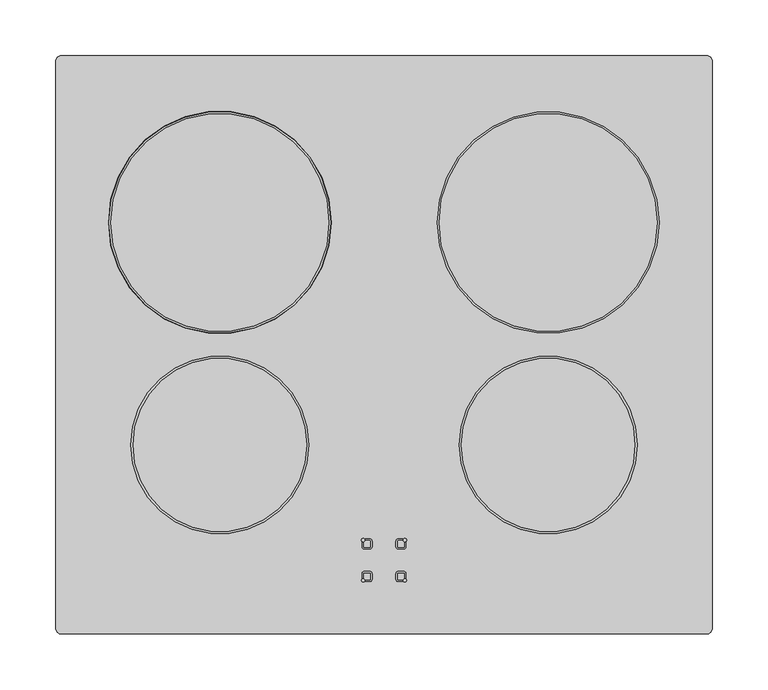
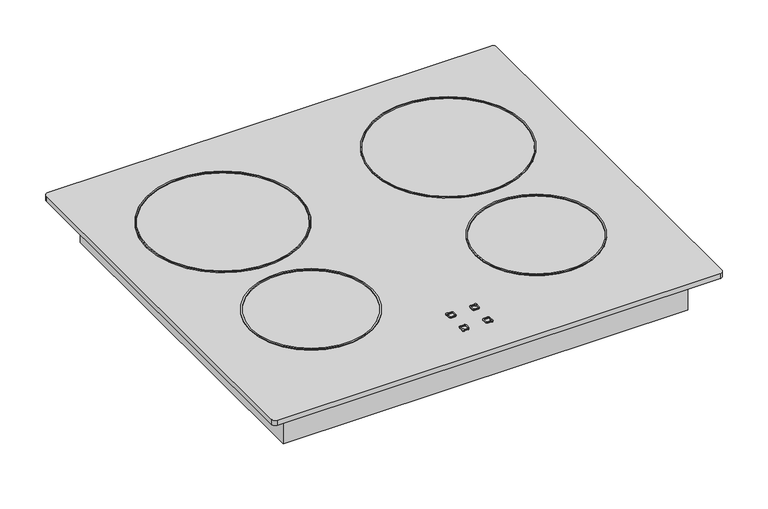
"""IFC4 building model written with IfcOpenShell, lengths in millimetres: proxy geometry, HAFELE Kitchen Induction Hob Plus+LONGBOTTOM : LONGBOTTOM_538.46.021."""

from ifc_helpers import new_model, si_unit, point, frame, frame_2d, origin, origin_with_axes, place, context, project, spatial, polyline, circle_curve, trimmed, segment, composite_curve, outline, extrude, source, transform, mapped, element, save
from ifc_brep_helpers import plane_surface, cylinder_surface, revolved_surface, advanced_brep


def specialty_equipment_7a79cb5c(model_context):
    return source(origin(), model_context, "Body", "SolidModel", [
        extrude(outline(polyline([(265.0, -30.0), (265.0, -490.0), (-265.0, -490.0), (-265.0, -30.0), (265.0, -30.0)])), origin_with_axes(), (0.0, 0.0, 1.0), 53.0),
        extrude(outline(composite_curve([segment(trimmed(circle_curve(frame_2d((147.5, -150.0)), 99.6194698), [point((247.1194698, -150.0))], [point((47.8805302, -150.0))], False, "CARTESIAN"), True, "CONTINUOUS"), segment(trimmed(circle_curve(frame_2d((147.5, -150.0)), 99.6194698), [point((47.8805302, -150.0))], [point((247.1194698, -150.0))], False, "CARTESIAN"), True, "CONTINUOUS")], self_intersect=False), holes=[composite_curve([segment(trimmed(circle_curve(frame_2d((147.5, -150.0)), 98.0), [point((245.5, -150.0))], [point((49.5, -150.0))], True, "CARTESIAN"), True, "CONTINUOUS"), segment(trimmed(circle_curve(frame_2d((147.5, -150.0)), 98.0), [point((49.5, -150.0))], [point((245.5, -150.0))], True, "CARTESIAN"), True, "CONTINUOUS")], self_intersect=False)]), frame((0.0, 0.0, 58.0), z_axis=(0.0, 0.0, 1.0), x_axis=(1.0, 0.0, 0.0)), (0.0, 0.0, 1.0), 3.0),
        extrude(outline(composite_curve([segment(trimmed(circle_curve(frame_2d((147.5, -350.0)), 80.0), [point((227.5, -350.0))], [point((67.5, -350.0))], False, "CARTESIAN"), True, "CONTINUOUS"), segment(trimmed(circle_curve(frame_2d((147.5, -350.0)), 80.0), [point((67.5, -350.0))], [point((227.5, -350.0))], False, "CARTESIAN"), True, "CONTINUOUS")], self_intersect=False), holes=[composite_curve([segment(trimmed(circle_curve(frame_2d((147.5, -350.0)), 78.0), [point((225.5, -350.0))], [point((69.5, -350.0))], True, "CARTESIAN"), True, "CONTINUOUS"), segment(trimmed(circle_curve(frame_2d((147.5, -350.0)), 78.0), [point((69.5, -350.0))], [point((225.5, -350.0))], True, "CARTESIAN"), True, "CONTINUOUS")], self_intersect=False)]), frame((0.0, 0.0, 58.0), z_axis=(0.0, 0.0, 1.0), x_axis=(1.0, 0.0, 0.0)), (0.0, 0.0, 1.0), 3.0),
        extrude(outline(composite_curve([segment(polyline([(-12.7462069, -435.5651361), (-16.7462069, -435.5651361)]), True, "CONTINUOUS"), segment(trimmed(circle_curve(frame_2d((-18.7462069, -435.5651361)), 2.0), [point((-16.7462069, -435.5651361))], [point((-17.0141561, -434.5651361))], True, "CARTESIAN"), True, "CONTINUOUS"), segment(polyline([(-17.0141561, -434.5651361), (-12.7462069, -434.5651361)]), True, "CONTINUOUS"), segment(trimmed(circle_curve(frame_2d((-12.7462069, -436.5651361)), 2.0), [point((-12.7462069, -434.5651361))], [point((-10.7462069, -436.5651361))], False, "CARTESIAN"), True, "CONTINUOUS"), segment(polyline([(-10.7462069, -436.5651361), (-10.7462069, -441.5651361)]), True, "CONTINUOUS"), segment(trimmed(circle_curve(frame_2d((-12.7462069, -441.5651361)), 2.0), [point((-10.7462069, -441.5651361))], [point((-12.7462069, -443.5651361))], False, "CARTESIAN"), True, "CONTINUOUS"), segment(polyline([(-12.7462069, -443.5651361), (-17.7462069, -443.5651361)]), True, "CONTINUOUS"), segment(trimmed(circle_curve(frame_2d((-17.7462069, -441.5651361)), 2.0), [point((-17.7462069, -443.5651361))], [point((-19.7462069, -441.5651361))], False, "CARTESIAN"), True, "CONTINUOUS"), segment(polyline([(-19.7462069, -441.5651361), (-19.7462069, -437.297187)]), True, "CONTINUOUS"), segment(trimmed(circle_curve(frame_2d((-18.7462069, -435.5651361)), 2.0), [point((-19.7462069, -437.297187))], [point((-18.7462069, -437.5651361))], True, "CARTESIAN"), True, "CONTINUOUS"), segment(polyline([(-18.7462069, -437.5651361), (-18.7462069, -441.5651361)]), True, "CONTINUOUS"), segment(trimmed(circle_curve(frame_2d((-17.7462069, -441.5651361)), 1.0), [point((-18.7462069, -441.5651361))], [point((-17.7462069, -442.5651361))], True, "CARTESIAN"), True, "CONTINUOUS"), segment(polyline([(-17.7462069, -442.5651361), (-12.7462069, -442.5651361)]), True, "CONTINUOUS"), segment(trimmed(circle_curve(frame_2d((-12.7462069, -441.5651361)), 1.0), [point((-12.7462069, -442.5651361))], [point((-11.7462069, -441.5651361))], True, "CARTESIAN"), True, "CONTINUOUS"), segment(polyline([(-11.7462069, -441.5651361), (-11.7462069, -436.5651361)]), True, "CONTINUOUS"), segment(trimmed(circle_curve(frame_2d((-12.7462069, -436.5651361)), 1.0), [point((-11.7462069, -436.5651361))], [point((-12.7462069, -435.5651361))], True, "CARTESIAN"), True, "CONTINUOUS")], self_intersect=False)), frame((0.0, 0.0, 58.0), z_axis=(0.0, 0.0, 1.0), x_axis=(1.0, 0.0, 0.0)), (0.0, 0.0, 1.0), 3.0),
        extrude(outline(composite_curve([segment(trimmed(circle_curve(frame_2d((-18.7462069, -435.5651361)), 1.5), [point((-19.7254388, -434.4288682))], [point((-17.7669751, -436.7014041))], False, "CARTESIAN"), True, "CONTINUOUS"), segment(trimmed(circle_curve(frame_2d((-18.7462069, -435.5651361)), 1.5), [point((-17.7669751, -436.7014041))], [point((-19.7254388, -434.4288682))], False, "CARTESIAN"), True, "CONTINUOUS")], self_intersect=False)), frame((0.0, 0.0, 58.0), z_axis=(0.0, 0.0, 1.0), x_axis=(1.0, 0.0, 0.0)), (0.0, 0.0, 1.0), 3.0),
        extrude(outline(composite_curve([segment(trimmed(circle_curve(frame_2d((12.7462069, -436.5651361)), 1.0), [point((12.7462069, -435.5651361))], [point((11.7462069, -436.5651361))], True, "CARTESIAN"), True, "CONTINUOUS"), segment(polyline([(11.7462069, -436.5651361), (11.7462069, -441.5651361)]), True, "CONTINUOUS"), segment(trimmed(circle_curve(frame_2d((12.7462069, -441.5651361)), 1.0), [point((11.7462069, -441.5651361))], [point((12.7462069, -442.5651361))], True, "CARTESIAN"), True, "CONTINUOUS"), segment(polyline([(12.7462069, -442.5651361), (17.7462069, -442.5651361)]), True, "CONTINUOUS"), segment(trimmed(circle_curve(frame_2d((17.7462069, -441.5651361)), 1.0), [point((17.7462069, -442.5651361))], [point((18.7462069, -441.5651361))], True, "CARTESIAN"), True, "CONTINUOUS"), segment(polyline([(18.7462069, -441.5651361), (18.7462069, -437.5651361)]), True, "CONTINUOUS"), segment(trimmed(circle_curve(frame_2d((18.7462069, -435.5651361)), 2.0), [point((18.7462069, -437.5651361))], [point((19.7462069, -437.297187))], True, "CARTESIAN"), True, "CONTINUOUS"), segment(polyline([(19.7462069, -437.297187), (19.7462069, -441.5651361)]), True, "CONTINUOUS"), segment(trimmed(circle_curve(frame_2d((17.7462069, -441.5651361)), 2.0), [point((19.7462069, -441.5651361))], [point((17.7462069, -443.5651361))], False, "CARTESIAN"), True, "CONTINUOUS"), segment(polyline([(17.7462069, -443.5651361), (12.7462069, -443.5651361)]), True, "CONTINUOUS"), segment(trimmed(circle_curve(frame_2d((12.7462069, -441.5651361)), 2.0), [point((12.7462069, -443.5651361))], [point((10.7462069, -441.5651361))], False, "CARTESIAN"), True, "CONTINUOUS"), segment(polyline([(10.7462069, -441.5651361), (10.7462069, -436.5651361)]), True, "CONTINUOUS"), segment(trimmed(circle_curve(frame_2d((12.7462069, -436.5651361)), 2.0), [point((10.7462069, -436.5651361))], [point((12.7462069, -434.5651361))], False, "CARTESIAN"), True, "CONTINUOUS"), segment(polyline([(12.7462069, -434.5651361), (17.0141561, -434.5651361)]), True, "CONTINUOUS"), segment(trimmed(circle_curve(frame_2d((18.7462069, -435.5651361)), 2.0), [point((17.0141561, -434.5651361))], [point((16.7462069, -435.5651361))], True, "CARTESIAN"), True, "CONTINUOUS"), segment(polyline([(16.7462069, -435.5651361), (12.7462069, -435.5651361)]), True, "CONTINUOUS")], self_intersect=False)), frame((0.0, 0.0, 58.0), z_axis=(0.0, 0.0, 1.0), x_axis=(1.0, 0.0, 0.0)), (0.0, 0.0, 1.0), 3.0),
        extrude(outline(composite_curve([segment(trimmed(circle_curve(frame_2d((18.7462069, -435.5651361)), 1.5), [point((17.7669751, -436.7014041))], [point((19.7254388, -434.4288682))], False, "CARTESIAN"), True, "CONTINUOUS"), segment(trimmed(circle_curve(frame_2d((18.7462069, -435.5651361)), 1.5), [point((19.7254388, -434.4288682))], [point((17.7669751, -436.7014041))], False, "CARTESIAN"), True, "CONTINUOUS")], self_intersect=False)), frame((0.0, 0.0, 58.0), z_axis=(0.0, 0.0, 1.0), x_axis=(1.0, 0.0, 0.0)), (0.0, 0.0, 1.0), 3.0),
        extrude(outline(composite_curve([segment(trimmed(circle_curve(frame_2d((-12.7462069, -470.8337681)), 1.0), [point((-12.7462069, -471.8337681))], [point((-11.7462069, -470.8337681))], True, "CARTESIAN"), True, "CONTINUOUS"), segment(polyline([(-11.7462069, -470.8337681), (-11.7462069, -465.8337681)]), True, "CONTINUOUS"), segment(trimmed(circle_curve(frame_2d((-12.7462069, -465.8337681)), 1.0), [point((-11.7462069, -465.8337681))], [point((-12.7462069, -464.8337681))], True, "CARTESIAN"), True, "CONTINUOUS"), segment(polyline([(-12.7462069, -464.8337681), (-17.7462069, -464.8337681)]), True, "CONTINUOUS"), segment(trimmed(circle_curve(frame_2d((-17.7462069, -465.8337681)), 1.0), [point((-17.7462069, -464.8337681))], [point((-18.7462069, -465.8337681))], True, "CARTESIAN"), True, "CONTINUOUS"), segment(polyline([(-18.7462069, -465.8337681), (-18.7462069, -469.8337681)]), True, "CONTINUOUS"), segment(trimmed(circle_curve(frame_2d((-18.7462069, -471.8337681)), 2.0), [point((-18.7462069, -469.8337681))], [point((-19.7462069, -470.1017173))], True, "CARTESIAN"), True, "CONTINUOUS"), segment(polyline([(-19.7462069, -470.1017173), (-19.7462069, -465.8337681)]), True, "CONTINUOUS"), segment(trimmed(circle_curve(frame_2d((-17.7462069, -465.8337681)), 2.0), [point((-19.7462069, -465.8337681))], [point((-17.7462069, -463.8337681))], False, "CARTESIAN"), True, "CONTINUOUS"), segment(polyline([(-17.7462069, -463.8337681), (-12.7462069, -463.8337681)]), True, "CONTINUOUS"), segment(trimmed(circle_curve(frame_2d((-12.7462069, -465.8337681)), 2.0), [point((-12.7462069, -463.8337681))], [point((-10.7462069, -465.8337681))], False, "CARTESIAN"), True, "CONTINUOUS"), segment(polyline([(-10.7462069, -465.8337681), (-10.7462069, -470.8337681)]), True, "CONTINUOUS"), segment(trimmed(circle_curve(frame_2d((-12.7462069, -470.8337681)), 2.0), [point((-10.7462069, -470.8337681))], [point((-12.7462069, -472.8337681))], False, "CARTESIAN"), True, "CONTINUOUS"), segment(polyline([(-12.7462069, -472.8337681), (-17.0141561, -472.8337681)]), True, "CONTINUOUS"), segment(trimmed(circle_curve(frame_2d((-18.7462069, -471.8337681)), 2.0), [point((-17.0141561, -472.8337681))], [point((-16.7462069, -471.8337681))], True, "CARTESIAN"), True, "CONTINUOUS"), segment(polyline([(-16.7462069, -471.8337681), (-12.7462069, -471.8337681)]), True, "CONTINUOUS")], self_intersect=False)), frame((0.0, 0.0, 58.0), z_axis=(0.0, 0.0, 1.0), x_axis=(1.0, 0.0, 0.0)), (0.0, 0.0, 1.0), 3.0),
        extrude(outline(composite_curve([segment(trimmed(circle_curve(frame_2d((-18.7462069, -471.8337681)), 1.5), [point((-19.7254388, -472.9700361))], [point((-17.7669751, -470.6975001))], False, "CARTESIAN"), True, "CONTINUOUS"), segment(trimmed(circle_curve(frame_2d((-18.7462069, -471.8337681)), 1.5), [point((-17.7669751, -470.6975001))], [point((-19.7254388, -472.9700361))], False, "CARTESIAN"), True, "CONTINUOUS")], self_intersect=False)), frame((0.0, 0.0, 58.0), z_axis=(0.0, 0.0, 1.0), x_axis=(1.0, 0.0, 0.0)), (0.0, 0.0, 1.0), 3.0),
        extrude(outline(composite_curve([segment(polyline([(12.7462069, -471.8337681), (16.7462069, -471.8337681)]), True, "CONTINUOUS"), segment(trimmed(circle_curve(frame_2d((18.7462069, -471.8337681)), 2.0), [point((16.7462069, -471.8337681))], [point((17.0141561, -472.8337681))], True, "CARTESIAN"), True, "CONTINUOUS"), segment(polyline([(17.0141561, -472.8337681), (12.7462069, -472.8337681)]), True, "CONTINUOUS"), segment(trimmed(circle_curve(frame_2d((12.7462069, -470.8337681)), 2.0), [point((12.7462069, -472.8337681))], [point((10.7462069, -470.8337681))], False, "CARTESIAN"), True, "CONTINUOUS"), segment(polyline([(10.7462069, -470.8337681), (10.7462069, -465.8337681)]), True, "CONTINUOUS"), segment(trimmed(circle_curve(frame_2d((12.7462069, -465.8337681)), 2.0), [point((10.7462069, -465.8337681))], [point((12.7462069, -463.8337681))], False, "CARTESIAN"), True, "CONTINUOUS"), segment(polyline([(12.7462069, -463.8337681), (17.7462069, -463.8337681)]), True, "CONTINUOUS"), segment(trimmed(circle_curve(frame_2d((17.7462069, -465.8337681)), 2.0), [point((17.7462069, -463.8337681))], [point((19.7462069, -465.8337681))], False, "CARTESIAN"), True, "CONTINUOUS"), segment(polyline([(19.7462069, -465.8337681), (19.7462069, -470.1017173)]), True, "CONTINUOUS"), segment(trimmed(circle_curve(frame_2d((18.7462069, -471.8337681)), 2.0), [point((19.7462069, -470.1017173))], [point((18.7462069, -469.8337681))], True, "CARTESIAN"), True, "CONTINUOUS"), segment(polyline([(18.7462069, -469.8337681), (18.7462069, -465.8337681)]), True, "CONTINUOUS"), segment(trimmed(circle_curve(frame_2d((17.7462069, -465.8337681)), 1.0), [point((18.7462069, -465.8337681))], [point((17.7462069, -464.8337681))], True, "CARTESIAN"), True, "CONTINUOUS"), segment(polyline([(17.7462069, -464.8337681), (12.7462069, -464.8337681)]), True, "CONTINUOUS"), segment(trimmed(circle_curve(frame_2d((12.7462069, -465.8337681)), 1.0), [point((12.7462069, -464.8337681))], [point((11.7462069, -465.8337681))], True, "CARTESIAN"), True, "CONTINUOUS"), segment(polyline([(11.7462069, -465.8337681), (11.7462069, -470.8337681)]), True, "CONTINUOUS"), segment(trimmed(circle_curve(frame_2d((12.7462069, -470.8337681)), 1.0), [point((11.7462069, -470.8337681))], [point((12.7462069, -471.8337681))], True, "CARTESIAN"), True, "CONTINUOUS")], self_intersect=False)), frame((0.0, 0.0, 58.0), z_axis=(0.0, 0.0, 1.0), x_axis=(1.0, 0.0, 0.0)), (0.0, 0.0, 1.0), 3.0),
        extrude(outline(composite_curve([segment(trimmed(circle_curve(frame_2d((18.7462069, -471.8337681)), 1.5), [point((17.7669751, -470.6975001))], [point((19.7254388, -472.9700361))], False, "CARTESIAN"), True, "CONTINUOUS"), segment(trimmed(circle_curve(frame_2d((18.7462069, -471.8337681)), 1.5), [point((19.7254388, -472.9700361))], [point((17.7669751, -470.6975001))], False, "CARTESIAN"), True, "CONTINUOUS")], self_intersect=False)), frame((0.0, 0.0, 58.0), z_axis=(0.0, 0.0, 1.0), x_axis=(1.0, 0.0, 0.0)), (0.0, 0.0, 1.0), 3.0),
        extrude(outline(composite_curve([segment(trimmed(circle_curve(frame_2d((-147.5, -150.0)), 99.6194698), [point((-247.1194698, -150.0))], [point((-47.8805302, -150.0))], False, "CARTESIAN"), True, "CONTINUOUS"), segment(trimmed(circle_curve(frame_2d((-147.5, -150.0)), 99.6194698), [point((-47.8805302, -150.0))], [point((-247.1194698, -150.0))], False, "CARTESIAN"), True, "CONTINUOUS")], self_intersect=False), holes=[composite_curve([segment(trimmed(circle_curve(frame_2d((-147.5, -150.0)), 98.0), [point((-245.5, -150.0))], [point((-49.5, -150.0))], True, "CARTESIAN"), True, "CONTINUOUS"), segment(trimmed(circle_curve(frame_2d((-147.5, -150.0)), 98.0), [point((-49.5, -150.0))], [point((-245.5, -150.0))], True, "CARTESIAN"), True, "CONTINUOUS")], self_intersect=False)]), frame((0.0, 0.0, 58.0), z_axis=(0.0, 0.0, 1.0), x_axis=(1.0, 0.0, 0.0)), (0.0, 0.0, 1.0), 3.0),
        extrude(outline(composite_curve([segment(trimmed(circle_curve(frame_2d((-147.5, -350.0)), 80.0), [point((-227.5, -350.0))], [point((-67.5, -350.0))], False, "CARTESIAN"), True, "CONTINUOUS"), segment(trimmed(circle_curve(frame_2d((-147.5, -350.0)), 80.0), [point((-67.5, -350.0))], [point((-227.5, -350.0))], False, "CARTESIAN"), True, "CONTINUOUS")], self_intersect=False), holes=[composite_curve([segment(trimmed(circle_curve(frame_2d((-147.5, -350.0)), 78.0), [point((-225.5, -350.0))], [point((-69.5, -350.0))], True, "CARTESIAN"), True, "CONTINUOUS"), segment(trimmed(circle_curve(frame_2d((-147.5, -350.0)), 78.0), [point((-69.5, -350.0))], [point((-225.5, -350.0))], True, "CARTESIAN"), True, "CONTINUOUS")], self_intersect=False)]), frame((0.0, 0.0, 58.0), z_axis=(0.0, 0.0, 1.0), x_axis=(1.0, 0.0, 0.0)), (0.0, 0.0, 1.0), 3.0),
        advanced_brep(
        [(-290.0, 0.0, 60.0), (-295.0, -5.0, 60.0), (-295.0, -515.0, 60.0), (-290.0, -520.0, 60.0), (290.0, -520.0, 60.0), (295.0, -515.0, 60.0), (295.0, -5.0, 60.0), (290.0, 0.0, 60.0), (-47.5, -150.0, 60.0), (-247.5, -150.0, 60.0), (-67.5, -350.0, 60.0), (-227.5, -350.0, 60.0), (-49.5, -150.0, 60.0), (-245.5, -150.0, 60.0), (-69.5, -350.0, 60.0), (-225.5, -350.0, 60.0), (-290.0, 0.0, 53.0), (290.0, 0.0, 53.0), (295.0, -5.0, 53.0), (295.0, -515.0, 53.0), (290.0, -520.0, 53.0), (-290.0, -520.0, 53.0), (-295.0, -515.0, 53.0), (-295.0, -5.0, 53.0), (-247.5, -150.0, 58.0), (-47.5, -150.0, 58.0), (-245.5, -150.0, 58.0), (-49.5, -150.0, 58.0), (-227.5, -350.0, 58.0), (-67.5, -350.0, 58.0), (-225.5, -350.0, 58.0), (-69.5, -350.0, 58.0)],
        [
            (0, 1, circle_curve(frame((-290.0, -5.0, 60.0), z_axis=(0.0, 0.0, 1.0), x_axis=(1.0, 0.0, 0.0)), 5.0)),
            (1, 2),
            (2, 3, circle_curve(frame((-290.0, -515.0, 60.0), z_axis=(0.0, 0.0, 1.0), x_axis=(1.0, 0.0, 0.0)), 5.0)),
            (3, 4),
            (4, 5, circle_curve(frame((290.0, -515.0, 60.0), z_axis=(0.0, 0.0, 1.0), x_axis=(1.0, 0.0, 0.0)), 5.0)),
            (5, 6),
            (6, 7, circle_curve(frame((290.0, -5.0, 60.0), z_axis=(0.0, 0.0, 1.0), x_axis=(1.0, 0.0, 0.0)), 5.0)),
            (7, 0),
            (8, 9, circle_curve(frame((-147.5, -150.0, 60.0), z_axis=(0.0, 0.0, -1.0), x_axis=(1.0, 0.0, 0.0)), 100.0)),
            (9, 8, circle_curve(frame((-147.5, -150.0, 60.0), z_axis=(0.0, 0.0, -1.0), x_axis=(1.0, 0.0, 0.0)), 100.0)),
            (10, 11, circle_curve(frame((-147.5, -350.0, 60.0), z_axis=(0.0, 0.0, -1.0), x_axis=(1.0, 0.0, 0.0)), 80.0)),
            (11, 10, circle_curve(frame((-147.5, -350.0, 60.0), z_axis=(0.0, 0.0, -1.0), x_axis=(1.0, 0.0, 0.0)), 80.0)),
            (12, 13, circle_curve(frame((-147.5, -150.0, 60.0), z_axis=(0.0, 0.0, 1.0), x_axis=(1.0, 0.0, 0.0)), 98.0)),
            (13, 12, circle_curve(frame((-147.5, -150.0, 60.0), z_axis=(0.0, 0.0, 1.0), x_axis=(1.0, 0.0, 0.0)), 98.0)),
            (14, 15, circle_curve(frame((-147.5, -350.0, 60.0), z_axis=(0.0, 0.0, 1.0), x_axis=(1.0, 0.0, 0.0)), 78.0)),
            (15, 14, circle_curve(frame((-147.5, -350.0, 60.0), z_axis=(0.0, 0.0, 1.0), x_axis=(1.0, 0.0, 0.0)), 78.0)),
            (16, 17),
            (17, 18, circle_curve(frame((290.0, -5.0, 53.0), z_axis=(0.0, 0.0, -1.0), x_axis=(1.0, 0.0, 0.0)), 5.0)),
            (18, 19),
            (19, 20, circle_curve(frame((290.0, -515.0, 53.0), z_axis=(0.0, 0.0, -1.0), x_axis=(1.0, 0.0, 0.0)), 5.0)),
            (20, 21),
            (21, 22, circle_curve(frame((-290.0, -515.0, 53.0), z_axis=(0.0, 0.0, -1.0), x_axis=(1.0, 0.0, 0.0)), 5.0)),
            (22, 23),
            (23, 16, circle_curve(frame((-290.0, -5.0, 53.0), z_axis=(0.0, 0.0, -1.0), x_axis=(1.0, 0.0, 0.0)), 5.0)),
            (0, 16),
            (23, 1),
            (22, 2),
            (21, 3),
            (20, 4),
            (19, 5),
            (18, 6),
            (17, 7),
            (24, 25, circle_curve(frame((-147.5, -150.0, 58.0), z_axis=(0.0, 0.0, 1.0), x_axis=(1.0, 0.0, 0.0)), 100.0)),
            (25, 24, circle_curve(frame((-147.5, -150.0, 58.0), z_axis=(0.0, 0.0, 1.0), x_axis=(1.0, 0.0, 0.0)), 100.0)),
            (26, 27, circle_curve(frame((-147.5, -150.0, 58.0), z_axis=(0.0, 0.0, -1.0), x_axis=(1.0, 0.0, 0.0)), 98.0)),
            (27, 26, circle_curve(frame((-147.5, -150.0, 58.0), z_axis=(0.0, 0.0, -1.0), x_axis=(1.0, 0.0, 0.0)), 98.0)),
            (28, 29, circle_curve(frame((-147.5, -350.0, 58.0), z_axis=(0.0, 0.0, 1.0), x_axis=(1.0, 0.0, 0.0)), 80.0)),
            (29, 28, circle_curve(frame((-147.5, -350.0, 58.0), z_axis=(0.0, 0.0, 1.0), x_axis=(1.0, 0.0, 0.0)), 80.0)),
            (30, 31, circle_curve(frame((-147.5, -350.0, 58.0), z_axis=(0.0, 0.0, -1.0), x_axis=(1.0, 0.0, 0.0)), 78.0)),
            (31, 30, circle_curve(frame((-147.5, -350.0, 58.0), z_axis=(0.0, 0.0, -1.0), x_axis=(1.0, 0.0, 0.0)), 78.0)),
            (24, 9),
            (8, 25),
            (26, 13),
            (12, 27),
            (28, 11),
            (10, 29),
            (30, 15),
            (14, 31),
        ],
        [
            plane_surface(frame((-285.0, -5.0, 60.0), z_axis=(0.0, 0.0, 1.0), x_axis=(0.0, 1.0, 0.0))),
            plane_surface(frame((-285.0, -5.0, 53.0), z_axis=(0.0, 0.0, -1.0), x_axis=(0.0, -1.0, 0.0))),
            cylinder_surface(frame((-290.0, -5.0, 53.0), z_axis=(0.0, 0.0, 1.0), x_axis=(1.0, 0.0, 0.0)), 5.0),
            plane_surface(frame((-295.0, -5.0, 60.0), z_axis=(-1.0, 0.0, 0.0), x_axis=(0.0, 0.0, -1.0))),
            cylinder_surface(frame((-290.0, -515.0, 53.0), z_axis=(0.0, 0.0, 1.0), x_axis=(1.0, 0.0, 0.0)), 5.0),
            plane_surface(frame((-290.0, -520.0, 60.0), z_axis=(0.0, -1.0, 0.0), x_axis=(0.0, 0.0, -1.0))),
            cylinder_surface(frame((290.0, -515.0, 53.0), z_axis=(0.0, 0.0, 1.0), x_axis=(1.0, 0.0, 0.0)), 5.0),
            plane_surface(frame((295.0, -515.0, 60.0), z_axis=(1.0, 0.0, 0.0), x_axis=(0.0, 0.0, -1.0))),
            cylinder_surface(frame((290.0, -5.0, 53.0), z_axis=(0.0, 0.0, 1.0), x_axis=(1.0, 0.0, 0.0)), 5.0),
            plane_surface(frame((290.0, 0.0, 60.0), z_axis=(0.0, 1.0, 0.0), x_axis=(0.0, 0.0, -1.0))),
            plane_surface(frame((-47.5, -150.0, 58.0), z_axis=(0.0, 0.0, 1.0), x_axis=(0.0, -1.0, 0.0))),
            revolved_surface(polyline([(-47.5, -150.0, 60.0), (-47.5, -150.0, 58.0)]), (-147.5, -150.0, 58.0), (0.0, 0.0, 1.0)),
            cylinder_surface(frame((-147.5, -150.0, 0.0), z_axis=(0.0, 0.0, -1.0), x_axis=(1.0, 0.0, 0.0)), 98.0),
            revolved_surface(polyline([(-67.5, -350.0, 60.0), (-67.5, -350.0, 58.0)]), (-147.5, -350.0, 0.0), (0.0, 0.0, 1.0)),
            cylinder_surface(frame((-147.5, -350.0, 0.0), z_axis=(0.0, 0.0, -1.0), x_axis=(1.0, 0.0, 0.0)), 78.0),
        ],
        [
            (0, [[1, 2, 3, 4, 5, 6, 7, 8], [9, 10], [11, 12]]),
            (0, [[13, 14]]),
            (0, [[15, 16]]),
            (1, [[17, 18, 19, 20, 21, 22, 23, 24]]),
            (2, [[-1, 25, -24, 26]]),
            (3, [[-2, -26, -23, 27]]),
            (4, [[-3, -27, -22, 28]]),
            (5, [[-4, -28, -21, 29]]),
            (6, [[-5, -29, -20, 30]]),
            (7, [[-6, -30, -19, 31]]),
            (8, [[-7, -31, -18, 32]]),
            (9, [[-8, -32, -17, -25]]),
            (10, [[33, 34], [35, 36]]),
            (10, [[37, 38], [39, 40]]),
            (11, [[-33, 41, -9, 42]]),
            (11, [[-34, -42, -10, -41]]),
            (12, [[-35, 43, -13, 44]]),
            (12, [[-36, -44, -14, -43]]),
            (13, [[-37, 45, -11, 46]]),
            (13, [[-38, -46, -12, -45]]),
            (14, [[-39, 47, -15, 48]]),
            (14, [[-40, -48, -16, -47]]),
        ],
    ),
    ])


if __name__ == "__main__":
    model = new_model("IFC4")
    model_context = context("Model", 3, world=origin())
    ifc_project = project(units=[si_unit("LENGTHUNIT", "METRE", prefix="MILLI")], contexts=[model_context])
    site = spatial("IfcSite", under=ifc_project)
    building = spatial("IfcBuilding", under=site)
    placement = place(None, origin())
    specialty_equipment_shape = specialty_equipment_7a79cb5c(model_context)
    element("IfcBuildingElementProxy", 1, Name="HAFELE Kitchen Induction Hob Plus+LONGBOTTOM : LONGBOTTOM_538.46.021", ObjectType="HAFELE Kitchen Induction Hob Plus+LONGBOTTOM : LONGBOTTOM_538.46.021", at=placement, inside=building, context=model_context, shape_type="MappedRepresentation", body=[
        mapped(specialty_equipment_shape, transform((0.0, 0.0, 0.0), x_axis=(1.0, 0.0, 0.0), y_axis=(0.0, 1.0, 0.0), z_axis=(0.0, 0.0, 1.0))),
    ])
    save(model, "model.ifc")
